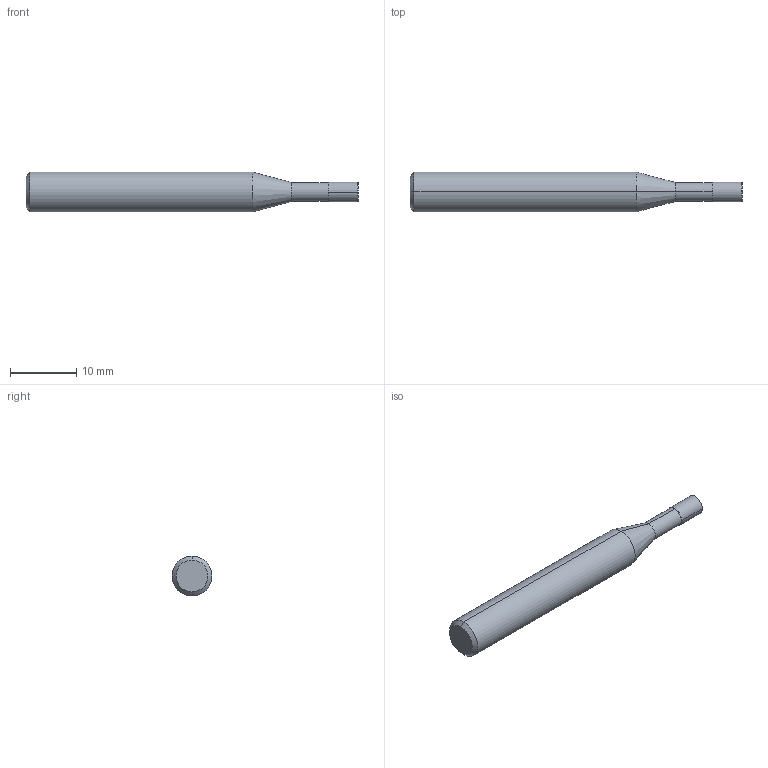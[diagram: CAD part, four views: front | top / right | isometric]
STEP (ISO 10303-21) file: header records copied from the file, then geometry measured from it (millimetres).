
FILE_DESCRIPTION (( 'STEP AP214' ), '1' );
FILE_NAME ('SEME610300110E.STEP', '2018-03-30T00:35:21', ( '' ), ( '' ), 'SwSTEP 2.0', 'SolidWorks 2014', '' );
FILE_SCHEMA (( 'AUTOMOTIVE_DESIGN' ));
Length unit declared in the file: millimetre
Products named in the file (1): SEME610300110E
Bounding box: 50 x 6 x 6 mm (x, y, z)
Volume: 1122.7 mm3; surface area: 860.7 mm2
Topology: 2 solids, 2 shells, 16 faces, 28 edges, 16 vertices
Faces by surface type: cylinder 6, cone 4, plane 4, torus 2
Entity records: 429 total; most frequent: DIRECTION 80, CARTESIAN_POINT 61, ORIENTED_EDGE 56, AXIS2_PLACEMENT_3D 35, EDGE_CURVE 28, CIRCLE 18, EDGE_LOOP 16, VERTEX_POINT 16
